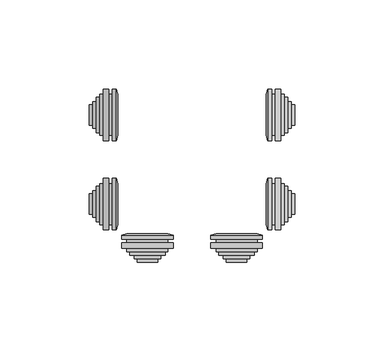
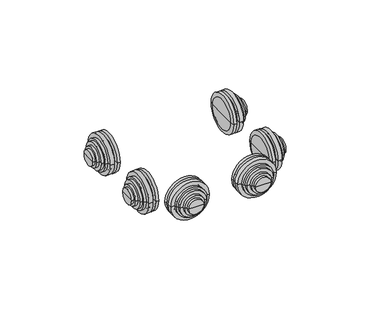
"""IFC4 building model written with IfcOpenShell, lengths in millimetres: cable carrier fitting geometry, КНС_КоробкаОтветвительнаяСКабельнымиВводами_8+2_IP55_DKC : с 8+2 кабельными вводами д.25/20мм, IP55,85х85х40мм."""

from ifc_helpers import new_model, si_unit, frame, origin, place, context, project, spatial, polyline, circle_curve, source, transform, mapped, element, save
from ifc_brep_helpers import plane_surface, cylinder_surface, revolved_surface, advanced_brep


def cable_carrier_fitting_ba293f6f(model_context):
    return source(origin(), model_context, "Body", "AdvancedBrep", [
        advanced_brep(
        [(-44.7, -36.5, 15.9), (-44.7, -13.5, 15.9), (-44.7, -10.5, 15.9), (-44.7, -39.5, 15.9), (-46.7, -36.5, 15.9), (-46.7, -13.5, 15.9), (-46.7, -39.5, 15.9), (-46.7, -10.5, 15.9), (-49.7, -39.5, 15.9), (-49.7, -10.5, 15.9), (-49.7, -36.5, 15.9), (-49.7, -13.5, 15.9), (-51.7, -36.5, 15.9), (-51.7, -13.5, 15.9), (-51.7, -35.0, 15.9), (-51.7, -15.0, 15.9), (-53.7, -35.0, 15.9), (-53.7, -15.0, 15.9), (-53.7, -32.5, 15.9), (-53.7, -17.5, 15.9), (-55.7, -32.5, 15.9), (-55.7, -17.5, 15.9), (-55.7, -30.75, 15.9), (-55.7, -19.25, 15.9), (-57.7, -30.75, 15.9), (-57.7, -19.25, 15.9), (-57.7, -25.0, 15.9), (-41.7, -36.5, 15.9), (-41.7, -13.5, 15.9), (-41.7, -25.0, 15.9), (-42.4491137, -39.5, 15.9), (-42.4491137, -10.5, 15.9)],
        [
            (0, 1, circle_curve(frame((-44.7, -25.0, 15.9), z_axis=(1.0, 0.0, 0.0), x_axis=(0.0, 1.0000000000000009, 0.0)), 11.5)),
            (1, 2),
            (2, 3, circle_curve(frame((-44.7, -25.0, 15.9), z_axis=(-1.0, 0.0, 0.0), x_axis=(0.0, 1.0000000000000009, 0.0)), 14.5)),
            (3, 0),
            (1, 0, circle_curve(frame((-44.7, -25.0, 15.9), z_axis=(1.0, 0.0, 0.0), x_axis=(0.0, 1.0000000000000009, 0.0)), 11.5)),
            (3, 2, circle_curve(frame((-44.7, -25.0, 15.9), z_axis=(-1.0, 0.0, 0.0), x_axis=(0.0, 1.0000000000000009, 0.0)), 14.5)),
            (4, 5, circle_curve(frame((-46.7, -25.0, 15.9), z_axis=(1.0, 0.0, 0.0), x_axis=(0.0, 1.0000000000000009, 0.0)), 11.5)),
            (5, 1),
            (0, 4),
            (5, 4, circle_curve(frame((-46.7, -25.0, 15.9), z_axis=(1.0, 0.0, 0.0), x_axis=(0.0, 1.0000000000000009, 0.0)), 11.5)),
            (6, 7, circle_curve(frame((-46.7, -25.0, 15.9), z_axis=(1.0, 0.0, 0.0), x_axis=(0.0, 1.0000000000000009, 0.0)), 14.5)),
            (7, 5),
            (4, 6),
            (7, 6, circle_curve(frame((-46.7, -25.0, 15.9), z_axis=(1.0, 0.0, 0.0), x_axis=(0.0, 1.0000000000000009, 0.0)), 14.5)),
            (8, 9, circle_curve(frame((-49.7, -25.0, 15.9), z_axis=(1.0, 0.0, 0.0), x_axis=(0.0, 1.0000000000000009, 0.0)), 14.5)),
            (9, 7),
            (6, 8),
            (9, 8, circle_curve(frame((-49.7, -25.0, 15.9), z_axis=(1.0, 0.0, 0.0), x_axis=(0.0, 1.0000000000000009, 0.0)), 14.5)),
            (10, 11, circle_curve(frame((-49.7, -25.0, 15.9), z_axis=(1.0, 0.0, 0.0), x_axis=(0.0, 1.0000000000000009, 0.0)), 11.5)),
            (11, 9),
            (8, 10),
            (11, 10, circle_curve(frame((-49.7, -25.0, 15.9), z_axis=(1.0, 0.0, 0.0), x_axis=(0.0, 1.0000000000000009, 0.0)), 11.5)),
            (12, 13, circle_curve(frame((-51.7, -25.0, 15.9), z_axis=(1.0, 0.0, 0.0), x_axis=(0.0, 1.0000000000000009, 0.0)), 11.5)),
            (13, 11),
            (10, 12),
            (13, 12, circle_curve(frame((-51.7, -25.0, 15.9), z_axis=(1.0, 0.0, 0.0), x_axis=(0.0, 1.0000000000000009, 0.0)), 11.5)),
            (14, 15, circle_curve(frame((-51.7, -25.0, 15.9), z_axis=(1.0, 0.0, 0.0), x_axis=(0.0, 1.0000000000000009, 0.0)), 10.0)),
            (15, 13),
            (12, 14),
            (15, 14, circle_curve(frame((-51.7, -25.0, 15.9), z_axis=(1.0, 0.0, 0.0), x_axis=(0.0, 1.0000000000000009, 0.0)), 10.0)),
            (16, 17, circle_curve(frame((-53.7, -25.0, 15.9), z_axis=(1.0, 0.0, 0.0), x_axis=(0.0, 1.0000000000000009, 0.0)), 10.0)),
            (17, 15),
            (14, 16),
            (17, 16, circle_curve(frame((-53.7, -25.0, 15.9), z_axis=(1.0, 0.0, 0.0), x_axis=(0.0, 1.0000000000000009, 0.0)), 10.0)),
            (18, 19, circle_curve(frame((-53.7, -25.0, 15.9), z_axis=(1.0, 0.0, 0.0), x_axis=(0.0, 1.0000000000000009, 0.0)), 7.5)),
            (19, 17),
            (16, 18),
            (19, 18, circle_curve(frame((-53.7, -25.0, 15.9), z_axis=(1.0, 0.0, 0.0), x_axis=(0.0, 1.0000000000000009, 0.0)), 7.5)),
            (20, 21, circle_curve(frame((-55.7, -25.0, 15.9), z_axis=(1.0, 0.0, 0.0), x_axis=(0.0, 1.0000000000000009, 0.0)), 7.5)),
            (21, 19),
            (18, 20),
            (21, 20, circle_curve(frame((-55.7, -25.0, 15.9), z_axis=(1.0, 0.0, 0.0), x_axis=(0.0, 1.0000000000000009, 0.0)), 7.5)),
            (22, 23, circle_curve(frame((-55.7, -25.0, 15.9), z_axis=(1.0, 0.0, 0.0), x_axis=(0.0, 1.0000000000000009, 0.0)), 5.75)),
            (23, 21),
            (20, 22),
            (23, 22, circle_curve(frame((-55.7, -25.0, 15.9), z_axis=(1.0, 0.0, 0.0), x_axis=(0.0, 1.0000000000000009, 0.0)), 5.75)),
            (24, 25, circle_curve(frame((-57.7, -25.0, 15.9), z_axis=(1.0, 0.0, 0.0), x_axis=(0.0, 1.0000000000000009, 0.0)), 5.75)),
            (25, 23),
            (22, 24),
            (25, 24, circle_curve(frame((-57.7, -25.0, 15.9), z_axis=(1.0, 0.0, 0.0), x_axis=(0.0, 1.0000000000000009, 0.0)), 5.75)),
            (26, 25),
            (24, 26),
            (27, 28, circle_curve(frame((-41.7, -25.0, 15.9), z_axis=(1.0, 0.0, 0.0), x_axis=(0.0, 1.0000000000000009, 0.0)), 11.5)),
            (28, 29),
            (29, 27),
            (28, 27, circle_curve(frame((-41.7, -25.0, 15.9), z_axis=(1.0, 0.0, 0.0), x_axis=(0.0, 1.0000000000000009, 0.0)), 11.5)),
            (30, 31, circle_curve(frame((-42.4491137, -25.0, 15.9), z_axis=(1.0, 0.0, 0.0), x_axis=(0.0, 1.0000000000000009, 0.0)), 14.5)),
            (31, 28),
            (27, 30),
            (31, 30, circle_curve(frame((-42.4491137, -25.0, 15.9), z_axis=(1.0, 0.0, 0.0), x_axis=(0.0, 1.0000000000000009, 0.0)), 14.5)),
            (2, 31),
            (30, 3),
        ],
        [
            plane_surface(frame((-44.7, -25.0, 15.9), z_axis=(-1.0, 0.0, 0.0), x_axis=(0.0, 1.0, 0.0))),
            cylinder_surface(frame((1468.3, -25.0, 15.9), z_axis=(-1.0000000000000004, 0.0, 0.0), x_axis=(0.0, 1.0000000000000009, 0.0)), 11.5),
            plane_surface(frame((-46.7, -25.0, 15.9), z_axis=(1.0, 0.0, 0.0), x_axis=(0.0, 1.0, 0.0))),
            cylinder_surface(frame((1468.3, -25.0, 15.9), z_axis=(-1.0000000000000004, 0.0, 0.0), x_axis=(0.0, 1.0000000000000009, 0.0)), 14.5),
            plane_surface(frame((-49.7, -25.0, 15.9), z_axis=(-1.0, 0.0, 0.0), x_axis=(0.0, 1.0, 0.0))),
            plane_surface(frame((-51.7, -25.0, 15.9), z_axis=(-1.0, 0.0, 0.0), x_axis=(0.0, 1.0, 0.0))),
            cylinder_surface(frame((1468.3, -25.0, 15.9), z_axis=(-1.0000000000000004, 0.0, 0.0), x_axis=(0.0, 1.0000000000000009, 0.0)), 10.0),
            plane_surface(frame((-53.7, -25.0, 15.9), z_axis=(-1.0, 0.0, 0.0), x_axis=(0.0, 1.0, 0.0))),
            cylinder_surface(frame((1468.3, -25.0, 15.9), z_axis=(-1.0000000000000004, 0.0, 0.0), x_axis=(0.0, 1.0000000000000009, 0.0)), 7.5),
            plane_surface(frame((-55.7, -25.0, 15.9), z_axis=(-1.0, 0.0, 0.0), x_axis=(0.0, 1.0, 0.0))),
            cylinder_surface(frame((1468.3, -25.0, 15.9), z_axis=(-1.0000000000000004, 0.0, 0.0), x_axis=(0.0, 1.0000000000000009, 0.0)), 5.75),
            plane_surface(frame((-57.7, -25.0, 15.9), z_axis=(-1.0, 0.0, 0.0), x_axis=(0.0, 1.0, 0.0))),
            plane_surface(frame((-41.7, -25.0, 15.9), z_axis=(1.0, 0.0, 0.0), x_axis=(0.0, 1.0, 0.0))),
            revolved_surface(polyline([(-41.7, -13.5, 15.9), (-42.4491137, -10.5, 15.9)]), (1468.3, -25.0, 15.9), (-1.0000000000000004, 0.0, 0.0)),
        ],
        [
            (0, [[1, 2, 3, 4]]),
            (0, [[5, -4, 6, -2]]),
            (1, [[7, 8, -1, 9]]),
            (1, [[10, -9, -5, -8]]),
            (2, [[11, 12, -7, 13]]),
            (2, [[14, -13, -10, -12]]),
            (3, [[15, 16, -11, 17]]),
            (3, [[18, -17, -14, -16]]),
            (4, [[19, 20, -15, 21]]),
            (4, [[22, -21, -18, -20]]),
            (1, [[23, 24, -19, 25]]),
            (1, [[26, -25, -22, -24]]),
            (5, [[27, 28, -23, 29]]),
            (5, [[30, -29, -26, -28]]),
            (6, [[31, 32, -27, 33]]),
            (6, [[34, -33, -30, -32]]),
            (7, [[35, 36, -31, 37]]),
            (7, [[38, -37, -34, -36]]),
            (8, [[39, 40, -35, 41]]),
            (8, [[42, -41, -38, -40]]),
            (9, [[43, 44, -39, 45]]),
            (9, [[46, -45, -42, -44]]),
            (10, [[47, 48, -43, 49]]),
            (10, [[50, -49, -46, -48]]),
            (11, [[51, -47, 52]]),
            (11, [[-52, -50, -51]]),
            (12, [[53, 54, 55]]),
            (12, [[56, -55, -54]]),
            (13, [[57, 58, -53, 59]]),
            (13, [[60, -59, -56, -58]]),
            (3, [[-3, 61, -57, 62]]),
            (3, [[-6, -62, -60, -61]]),
        ],
    ),
        advanced_brep(
        [(-44.7, 13.5, 15.9), (-44.7, 36.5, 15.9), (-44.7, 39.5, 15.9), (-44.7, 10.5, 15.9), (-46.7, 13.5, 15.9), (-46.7, 36.5, 15.9), (-46.7, 10.5, 15.9), (-46.7, 39.5, 15.9), (-49.7, 10.5, 15.9), (-49.7, 39.5, 15.9), (-49.7, 13.5, 15.9), (-49.7, 36.5, 15.9), (-51.7, 13.5, 15.9), (-51.7, 36.5, 15.9), (-51.7, 15.0, 15.9), (-51.7, 35.0, 15.9), (-53.7, 15.0, 15.9), (-53.7, 35.0, 15.9), (-53.7, 17.5, 15.9), (-53.7, 32.5, 15.9), (-55.7, 17.5, 15.9), (-55.7, 32.5, 15.9), (-55.7, 19.25, 15.9), (-55.7, 30.75, 15.9), (-57.7, 19.25, 15.9), (-57.7, 30.75, 15.9), (-57.7, 25.0, 15.9), (-41.7, 13.5, 15.9), (-41.7, 36.5, 15.9), (-41.7, 25.0, 15.9), (-42.4491137, 10.5, 15.9), (-42.4491137, 39.5, 15.9)],
        [
            (0, 1, circle_curve(frame((-44.7, 25.0, 15.9), z_axis=(1.0, 0.0, 0.0), x_axis=(0.0, 1.0000000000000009, 0.0)), 11.5)),
            (1, 2),
            (2, 3, circle_curve(frame((-44.7, 25.0, 15.9), z_axis=(-1.0, 0.0, 0.0), x_axis=(0.0, 1.0000000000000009, 0.0)), 14.5)),
            (3, 0),
            (1, 0, circle_curve(frame((-44.7, 25.0, 15.9), z_axis=(1.0, 0.0, 0.0), x_axis=(0.0, 1.0000000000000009, 0.0)), 11.5)),
            (3, 2, circle_curve(frame((-44.7, 25.0, 15.9), z_axis=(-1.0, 0.0, 0.0), x_axis=(0.0, 1.0000000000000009, 0.0)), 14.5)),
            (4, 5, circle_curve(frame((-46.7, 25.0, 15.9), z_axis=(1.0, 0.0, 0.0), x_axis=(0.0, 1.0000000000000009, 0.0)), 11.5)),
            (5, 1),
            (0, 4),
            (5, 4, circle_curve(frame((-46.7, 25.0, 15.9), z_axis=(1.0, 0.0, 0.0), x_axis=(0.0, 1.0000000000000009, 0.0)), 11.5)),
            (6, 7, circle_curve(frame((-46.7, 25.0, 15.9), z_axis=(1.0, 0.0, 0.0), x_axis=(0.0, 1.0000000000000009, 0.0)), 14.5)),
            (7, 5),
            (4, 6),
            (7, 6, circle_curve(frame((-46.7, 25.0, 15.9), z_axis=(1.0, 0.0, 0.0), x_axis=(0.0, 1.0000000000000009, 0.0)), 14.5)),
            (8, 9, circle_curve(frame((-49.7, 25.0, 15.9), z_axis=(1.0, 0.0, 0.0), x_axis=(0.0, 1.0000000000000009, 0.0)), 14.5)),
            (9, 7),
            (6, 8),
            (9, 8, circle_curve(frame((-49.7, 25.0, 15.9), z_axis=(1.0, 0.0, 0.0), x_axis=(0.0, 1.0000000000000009, 0.0)), 14.5)),
            (10, 11, circle_curve(frame((-49.7, 25.0, 15.9), z_axis=(1.0, 0.0, 0.0), x_axis=(0.0, 1.0000000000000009, 0.0)), 11.5)),
            (11, 9),
            (8, 10),
            (11, 10, circle_curve(frame((-49.7, 25.0, 15.9), z_axis=(1.0, 0.0, 0.0), x_axis=(0.0, 1.0000000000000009, 0.0)), 11.5)),
            (12, 13, circle_curve(frame((-51.7, 25.0, 15.9), z_axis=(1.0, 0.0, 0.0), x_axis=(0.0, 1.0000000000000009, 0.0)), 11.5)),
            (13, 11),
            (10, 12),
            (13, 12, circle_curve(frame((-51.7, 25.0, 15.9), z_axis=(1.0, 0.0, 0.0), x_axis=(0.0, 1.0000000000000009, 0.0)), 11.5)),
            (14, 15, circle_curve(frame((-51.7, 25.0, 15.9), z_axis=(1.0, 0.0, 0.0), x_axis=(0.0, 1.0000000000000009, 0.0)), 10.0)),
            (15, 13),
            (12, 14),
            (15, 14, circle_curve(frame((-51.7, 25.0, 15.9), z_axis=(1.0, 0.0, 0.0), x_axis=(0.0, 1.0000000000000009, 0.0)), 10.0)),
            (16, 17, circle_curve(frame((-53.7, 25.0, 15.9), z_axis=(1.0, 0.0, 0.0), x_axis=(0.0, 1.0000000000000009, 0.0)), 10.0)),
            (17, 15),
            (14, 16),
            (17, 16, circle_curve(frame((-53.7, 25.0, 15.9), z_axis=(1.0, 0.0, 0.0), x_axis=(0.0, 1.0000000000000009, 0.0)), 10.0)),
            (18, 19, circle_curve(frame((-53.7, 25.0, 15.9), z_axis=(1.0, 0.0, 0.0), x_axis=(0.0, 1.0000000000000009, 0.0)), 7.5)),
            (19, 17),
            (16, 18),
            (19, 18, circle_curve(frame((-53.7, 25.0, 15.9), z_axis=(1.0, 0.0, 0.0), x_axis=(0.0, 1.0000000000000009, 0.0)), 7.5)),
            (20, 21, circle_curve(frame((-55.7, 25.0, 15.9), z_axis=(1.0, 0.0, 0.0), x_axis=(0.0, 1.0000000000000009, 0.0)), 7.5)),
            (21, 19),
            (18, 20),
            (21, 20, circle_curve(frame((-55.7, 25.0, 15.9), z_axis=(1.0, 0.0, 0.0), x_axis=(0.0, 1.0000000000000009, 0.0)), 7.5)),
            (22, 23, circle_curve(frame((-55.7, 25.0, 15.9), z_axis=(1.0, 0.0, 0.0), x_axis=(0.0, 1.0000000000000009, 0.0)), 5.75)),
            (23, 21),
            (20, 22),
            (23, 22, circle_curve(frame((-55.7, 25.0, 15.9), z_axis=(1.0, 0.0, 0.0), x_axis=(0.0, 1.0000000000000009, 0.0)), 5.75)),
            (24, 25, circle_curve(frame((-57.7, 25.0, 15.9), z_axis=(1.0, 0.0, 0.0), x_axis=(0.0, 1.0000000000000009, 0.0)), 5.75)),
            (25, 23),
            (22, 24),
            (25, 24, circle_curve(frame((-57.7, 25.0, 15.9), z_axis=(1.0, 0.0, 0.0), x_axis=(0.0, 1.0000000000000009, 0.0)), 5.75)),
            (26, 25),
            (24, 26),
            (27, 28, circle_curve(frame((-41.7, 25.0, 15.9), z_axis=(1.0, 0.0, 0.0), x_axis=(0.0, 1.0000000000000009, 0.0)), 11.5)),
            (28, 29),
            (29, 27),
            (28, 27, circle_curve(frame((-41.7, 25.0, 15.9), z_axis=(1.0, 0.0, 0.0), x_axis=(0.0, 1.0000000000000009, 0.0)), 11.5)),
            (30, 31, circle_curve(frame((-42.4491137, 25.0, 15.9), z_axis=(1.0, 0.0, 0.0), x_axis=(0.0, 1.0000000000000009, 0.0)), 14.5)),
            (31, 28),
            (27, 30),
            (31, 30, circle_curve(frame((-42.4491137, 25.0, 15.9), z_axis=(1.0, 0.0, 0.0), x_axis=(0.0, 1.0000000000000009, 0.0)), 14.5)),
            (2, 31),
            (30, 3),
        ],
        [
            plane_surface(frame((-44.7, 25.0, 15.9), z_axis=(-1.0, 0.0, 0.0), x_axis=(0.0, 1.0, 0.0))),
            cylinder_surface(frame((1468.3, 25.0, 15.9), z_axis=(-1.0000000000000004, 0.0, 0.0), x_axis=(0.0, 1.0000000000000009, 0.0)), 11.5),
            plane_surface(frame((-46.7, 25.0, 15.9), z_axis=(1.0, 0.0, 0.0), x_axis=(0.0, 1.0, 0.0))),
            cylinder_surface(frame((1468.3, 25.0, 15.9), z_axis=(-1.0000000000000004, 0.0, 0.0), x_axis=(0.0, 1.0000000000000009, 0.0)), 14.5),
            plane_surface(frame((-49.7, 25.0, 15.9), z_axis=(-1.0, 0.0, 0.0), x_axis=(0.0, 1.0, 0.0))),
            plane_surface(frame((-51.7, 25.0, 15.9), z_axis=(-1.0, 0.0, 0.0), x_axis=(0.0, 1.0, 0.0))),
            cylinder_surface(frame((1468.3, 25.0, 15.9), z_axis=(-1.0000000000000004, 0.0, 0.0), x_axis=(0.0, 1.0000000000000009, 0.0)), 10.0),
            plane_surface(frame((-53.7, 25.0, 15.9), z_axis=(-1.0, 0.0, 0.0), x_axis=(0.0, 1.0, 0.0))),
            cylinder_surface(frame((1468.3, 25.0, 15.9), z_axis=(-1.0000000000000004, 0.0, 0.0), x_axis=(0.0, 1.0000000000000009, 0.0)), 7.5),
            plane_surface(frame((-55.7, 25.0, 15.9), z_axis=(-1.0, 0.0, 0.0), x_axis=(0.0, 1.0, 0.0))),
            cylinder_surface(frame((1468.3, 25.0, 15.9), z_axis=(-1.0000000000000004, 0.0, 0.0), x_axis=(0.0, 1.0000000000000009, 0.0)), 5.75),
            plane_surface(frame((-57.7, 25.0, 15.9), z_axis=(-1.0, 0.0, 0.0), x_axis=(0.0, 1.0, 0.0))),
            plane_surface(frame((-41.7, 25.0, 15.9), z_axis=(1.0, 0.0, 0.0), x_axis=(0.0, 1.0, 0.0))),
            revolved_surface(polyline([(-41.7, 36.5, 15.9), (-42.4491137, 39.5, 15.9)]), (1468.3, 25.0, 15.9), (-1.0000000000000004, 0.0, 0.0)),
        ],
        [
            (0, [[1, 2, 3, 4]]),
            (0, [[5, -4, 6, -2]]),
            (1, [[7, 8, -1, 9]]),
            (1, [[10, -9, -5, -8]]),
            (2, [[11, 12, -7, 13]]),
            (2, [[14, -13, -10, -12]]),
            (3, [[15, 16, -11, 17]]),
            (3, [[18, -17, -14, -16]]),
            (4, [[19, 20, -15, 21]]),
            (4, [[22, -21, -18, -20]]),
            (1, [[23, 24, -19, 25]]),
            (1, [[26, -25, -22, -24]]),
            (5, [[27, 28, -23, 29]]),
            (5, [[30, -29, -26, -28]]),
            (6, [[31, 32, -27, 33]]),
            (6, [[34, -33, -30, -32]]),
            (7, [[35, 36, -31, 37]]),
            (7, [[38, -37, -34, -36]]),
            (8, [[39, 40, -35, 41]]),
            (8, [[42, -41, -38, -40]]),
            (9, [[43, 44, -39, 45]]),
            (9, [[46, -45, -42, -44]]),
            (10, [[47, 48, -43, 49]]),
            (10, [[50, -49, -46, -48]]),
            (11, [[51, -47, 52]]),
            (11, [[-52, -50, -51]]),
            (12, [[53, 54, 55]]),
            (12, [[56, -55, -54]]),
            (13, [[57, 58, -53, 59]]),
            (13, [[60, -59, -56, -58]]),
            (3, [[-3, 61, -57, 62]]),
            (3, [[-6, -62, -60, -61]]),
        ],
    ),
        advanced_brep(
        [(44.7, 36.5, 15.9), (44.7, 13.5, 15.9), (44.7, 10.5, 15.9), (44.7, 39.5, 15.9), (46.7, 36.5, 15.9), (46.7, 13.5, 15.9), (46.7, 39.5, 15.9), (46.7, 10.5, 15.9), (49.7, 39.5, 15.9), (49.7, 10.5, 15.9), (49.7, 36.5, 15.9), (49.7, 13.5, 15.9), (51.7, 36.5, 15.9), (51.7, 13.5, 15.9), (51.7, 35.0, 15.9), (51.7, 15.0, 15.9), (53.7, 35.0, 15.9), (53.7, 15.0, 15.9), (53.7, 32.5, 15.9), (53.7, 17.5, 15.9), (55.7, 32.5, 15.9), (55.7, 17.5, 15.9), (55.7, 30.75, 15.9), (55.7, 19.25, 15.9), (57.7, 30.75, 15.9), (57.7, 19.25, 15.9), (57.7, 25.0, 15.9), (41.7, 36.5, 15.9), (41.7, 13.5, 15.9), (41.7, 25.0, 15.9), (42.4491137, 39.5, 15.9), (42.4491137, 10.5, 15.9)],
        [
            (0, 1, circle_curve(frame((44.7, 25.0, 15.9), z_axis=(-1.0, 0.0, 0.0), x_axis=(0.0, -1.0, 0.0)), 11.5)),
            (1, 2),
            (2, 3, circle_curve(frame((44.7, 25.0, 15.9), z_axis=(1.0, 0.0, 0.0), x_axis=(0.0, -1.0, 0.0)), 14.5)),
            (3, 0),
            (1, 0, circle_curve(frame((44.7, 25.0, 15.9), z_axis=(-1.0, 0.0, 0.0), x_axis=(0.0, -1.0, 0.0)), 11.5)),
            (3, 2, circle_curve(frame((44.7, 25.0, 15.9), z_axis=(1.0, 0.0, 0.0), x_axis=(0.0, -1.0, 0.0)), 14.5)),
            (4, 5, circle_curve(frame((46.7, 25.0, 15.9), z_axis=(-1.0, 0.0, 0.0), x_axis=(0.0, -1.0, 0.0)), 11.5)),
            (5, 1),
            (0, 4),
            (5, 4, circle_curve(frame((46.7, 25.0, 15.9), z_axis=(-1.0, 0.0, 0.0), x_axis=(0.0, -1.0, 0.0)), 11.5)),
            (6, 7, circle_curve(frame((46.7, 25.0, 15.9), z_axis=(-1.0, 0.0, 0.0), x_axis=(0.0, -1.0, 0.0)), 14.5)),
            (7, 5),
            (4, 6),
            (7, 6, circle_curve(frame((46.7, 25.0, 15.9), z_axis=(-1.0, 0.0, 0.0), x_axis=(0.0, -1.0, 0.0)), 14.5)),
            (8, 9, circle_curve(frame((49.7, 25.0, 15.9), z_axis=(-1.0, 0.0, 0.0), x_axis=(0.0, -1.0, 0.0)), 14.5)),
            (9, 7),
            (6, 8),
            (9, 8, circle_curve(frame((49.7, 25.0, 15.9), z_axis=(-1.0, 0.0, 0.0), x_axis=(0.0, -1.0, 0.0)), 14.5)),
            (10, 11, circle_curve(frame((49.7, 25.0, 15.9), z_axis=(-1.0, 0.0, 0.0), x_axis=(0.0, -1.0, 0.0)), 11.5)),
            (11, 9),
            (8, 10),
            (11, 10, circle_curve(frame((49.7, 25.0, 15.9), z_axis=(-1.0, 0.0, 0.0), x_axis=(0.0, -1.0, 0.0)), 11.5)),
            (12, 13, circle_curve(frame((51.7, 25.0, 15.9), z_axis=(-1.0, 0.0, 0.0), x_axis=(0.0, -1.0, 0.0)), 11.5)),
            (13, 11),
            (10, 12),
            (13, 12, circle_curve(frame((51.7, 25.0, 15.9), z_axis=(-1.0, 0.0, 0.0), x_axis=(0.0, -1.0, 0.0)), 11.5)),
            (14, 15, circle_curve(frame((51.7, 25.0, 15.9), z_axis=(-1.0, 0.0, 0.0), x_axis=(0.0, -1.0, 0.0)), 10.0)),
            (15, 13),
            (12, 14),
            (15, 14, circle_curve(frame((51.7, 25.0, 15.9), z_axis=(-1.0, 0.0, 0.0), x_axis=(0.0, -1.0, 0.0)), 10.0)),
            (16, 17, circle_curve(frame((53.7, 25.0, 15.9), z_axis=(-1.0, 0.0, 0.0), x_axis=(0.0, -1.0, 0.0)), 10.0)),
            (17, 15),
            (14, 16),
            (17, 16, circle_curve(frame((53.7, 25.0, 15.9), z_axis=(-1.0, 0.0, 0.0), x_axis=(0.0, -1.0, 0.0)), 10.0)),
            (18, 19, circle_curve(frame((53.7, 25.0, 15.9), z_axis=(-1.0, 0.0, 0.0), x_axis=(0.0, -1.0, 0.0)), 7.5)),
            (19, 17),
            (16, 18),
            (19, 18, circle_curve(frame((53.7, 25.0, 15.9), z_axis=(-1.0, 0.0, 0.0), x_axis=(0.0, -1.0, 0.0)), 7.5)),
            (20, 21, circle_curve(frame((55.7, 25.0, 15.9), z_axis=(-1.0, 0.0, 0.0), x_axis=(0.0, -1.0, 0.0)), 7.5)),
            (21, 19),
            (18, 20),
            (21, 20, circle_curve(frame((55.7, 25.0, 15.9), z_axis=(-1.0, 0.0, 0.0), x_axis=(0.0, -1.0, 0.0)), 7.5)),
            (22, 23, circle_curve(frame((55.7, 25.0, 15.9), z_axis=(-1.0, 0.0, 0.0), x_axis=(0.0, -1.0, 0.0)), 5.75)),
            (23, 21),
            (20, 22),
            (23, 22, circle_curve(frame((55.7, 25.0, 15.9), z_axis=(-1.0, 0.0, 0.0), x_axis=(0.0, -1.0, 0.0)), 5.75)),
            (24, 25, circle_curve(frame((57.7, 25.0, 15.9), z_axis=(-1.0, 0.0, 0.0), x_axis=(0.0, -1.0, 0.0)), 5.75)),
            (25, 23),
            (22, 24),
            (25, 24, circle_curve(frame((57.7, 25.0, 15.9), z_axis=(-1.0, 0.0, 0.0), x_axis=(0.0, -1.0, 0.0)), 5.75)),
            (26, 25),
            (24, 26),
            (27, 28, circle_curve(frame((41.7, 25.0, 15.9), z_axis=(-1.0, 0.0, 0.0), x_axis=(0.0, -1.0, 0.0)), 11.5)),
            (28, 29),
            (29, 27),
            (28, 27, circle_curve(frame((41.7, 25.0, 15.9), z_axis=(-1.0, 0.0, 0.0), x_axis=(0.0, -1.0, 0.0)), 11.5)),
            (30, 31, circle_curve(frame((42.4491137, 25.0, 15.9), z_axis=(-1.0, 0.0, 0.0), x_axis=(0.0, -1.0, 0.0)), 14.5)),
            (31, 28),
            (27, 30),
            (31, 30, circle_curve(frame((42.4491137, 25.0, 15.9), z_axis=(-1.0, 0.0, 0.0), x_axis=(0.0, -1.0, 0.0)), 14.5)),
            (2, 31),
            (30, 3),
        ],
        [
            plane_surface(frame((44.7, 25.0, 15.9), z_axis=(1.0, 0.0, 0.0), x_axis=(0.0, -1.0, 0.0))),
            cylinder_surface(frame((-1468.3, 25.0, 15.9), z_axis=(1.0, 0.0, 0.0), x_axis=(0.0, -1.0, 0.0)), 11.5),
            plane_surface(frame((46.7, 25.0, 15.9), z_axis=(-1.0, 0.0, 0.0), x_axis=(0.0, -1.0, 0.0))),
            cylinder_surface(frame((-1468.3, 25.0, 15.9), z_axis=(1.0, 0.0, 0.0), x_axis=(0.0, -1.0, 0.0)), 14.5),
            plane_surface(frame((49.7, 25.0, 15.9), z_axis=(1.0, 0.0, 0.0), x_axis=(0.0, -1.0, 0.0))),
            plane_surface(frame((51.7, 25.0, 15.9), z_axis=(1.0, 0.0, 0.0), x_axis=(0.0, -1.0, 0.0))),
            cylinder_surface(frame((-1468.3, 25.0, 15.9), z_axis=(1.0, 0.0, 0.0), x_axis=(0.0, -1.0, 0.0)), 10.0),
            plane_surface(frame((53.7, 25.0, 15.9), z_axis=(1.0, 0.0, 0.0), x_axis=(0.0, -1.0, 0.0))),
            cylinder_surface(frame((-1468.3, 25.0, 15.9), z_axis=(1.0, 0.0, 0.0), x_axis=(0.0, -1.0, 0.0)), 7.5),
            plane_surface(frame((55.7, 25.0, 15.9), z_axis=(1.0, 0.0, 0.0), x_axis=(0.0, -1.0, 0.0))),
            cylinder_surface(frame((-1468.3, 25.0, 15.9), z_axis=(1.0, 0.0, 0.0), x_axis=(0.0, -1.0, 0.0)), 5.75),
            plane_surface(frame((57.7, 25.0, 15.9), z_axis=(1.0, 0.0, 0.0), x_axis=(0.0, -1.0, 0.0))),
            plane_surface(frame((41.7, 25.0, 15.9), z_axis=(-1.0, 0.0, 0.0), x_axis=(0.0, -1.0, 0.0))),
            revolved_surface(polyline([(41.7, 13.5, 15.9), (42.4491137, 10.5, 15.9)]), (-1468.3, 25.0, 15.9), (1.0, 0.0, 0.0)),
        ],
        [
            (0, [[1, 2, 3, 4]]),
            (0, [[5, -4, 6, -2]]),
            (1, [[7, 8, -1, 9]]),
            (1, [[10, -9, -5, -8]]),
            (2, [[11, 12, -7, 13]]),
            (2, [[14, -13, -10, -12]]),
            (3, [[15, 16, -11, 17]]),
            (3, [[18, -17, -14, -16]]),
            (4, [[19, 20, -15, 21]]),
            (4, [[22, -21, -18, -20]]),
            (1, [[23, 24, -19, 25]]),
            (1, [[26, -25, -22, -24]]),
            (5, [[27, 28, -23, 29]]),
            (5, [[30, -29, -26, -28]]),
            (6, [[31, 32, -27, 33]]),
            (6, [[34, -33, -30, -32]]),
            (7, [[35, 36, -31, 37]]),
            (7, [[38, -37, -34, -36]]),
            (8, [[39, 40, -35, 41]]),
            (8, [[42, -41, -38, -40]]),
            (9, [[43, 44, -39, 45]]),
            (9, [[46, -45, -42, -44]]),
            (10, [[47, 48, -43, 49]]),
            (10, [[50, -49, -46, -48]]),
            (11, [[51, -47, 52]]),
            (11, [[-52, -50, -51]]),
            (12, [[53, 54, 55]]),
            (12, [[56, -55, -54]]),
            (13, [[57, 58, -53, 59]]),
            (13, [[60, -59, -56, -58]]),
            (3, [[-3, 61, -57, 62]]),
            (3, [[-6, -62, -60, -61]]),
        ],
    ),
        advanced_brep(
        [(44.7, -13.5, 15.9), (44.7, -36.5, 15.9), (44.7, -39.5, 15.9), (44.7, -10.5, 15.9), (46.7, -13.5, 15.9), (46.7, -36.5, 15.9), (46.7, -10.5, 15.9), (46.7, -39.5, 15.9), (49.7, -10.5, 15.9), (49.7, -39.5, 15.9), (49.7, -13.5, 15.9), (49.7, -36.5, 15.9), (51.7, -13.5, 15.9), (51.7, -36.5, 15.9), (51.7, -15.0, 15.9), (51.7, -35.0, 15.9), (53.7, -15.0, 15.9), (53.7, -35.0, 15.9), (53.7, -17.5, 15.9), (53.7, -32.5, 15.9), (55.7, -17.5, 15.9), (55.7, -32.5, 15.9), (55.7, -19.25, 15.9), (55.7, -30.75, 15.9), (57.7, -19.25, 15.9), (57.7, -30.75, 15.9), (57.7, -25.0, 15.9), (41.7, -13.5, 15.9), (41.7, -36.5, 15.9), (41.7, -25.0, 15.9), (42.4491137, -10.5, 15.9), (42.4491137, -39.5, 15.9)],
        [
            (0, 1, circle_curve(frame((44.7, -25.0, 15.9), z_axis=(-1.0, 0.0, 0.0), x_axis=(0.0, -1.0000000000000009, 0.0)), 11.5)),
            (1, 2),
            (2, 3, circle_curve(frame((44.7, -25.0, 15.9), z_axis=(1.0, 0.0, 0.0), x_axis=(0.0, -1.0000000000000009, 0.0)), 14.5)),
            (3, 0),
            (1, 0, circle_curve(frame((44.7, -25.0, 15.9), z_axis=(-1.0, 0.0, 0.0), x_axis=(0.0, -1.0000000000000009, 0.0)), 11.5)),
            (3, 2, circle_curve(frame((44.7, -25.0, 15.9), z_axis=(1.0, 0.0, 0.0), x_axis=(0.0, -1.0000000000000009, 0.0)), 14.5)),
            (4, 5, circle_curve(frame((46.7, -25.0, 15.9), z_axis=(-1.0, 0.0, 0.0), x_axis=(0.0, -1.0000000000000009, 0.0)), 11.5)),
            (5, 1),
            (0, 4),
            (5, 4, circle_curve(frame((46.7, -25.0, 15.9), z_axis=(-1.0, 0.0, 0.0), x_axis=(0.0, -1.0000000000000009, 0.0)), 11.5)),
            (6, 7, circle_curve(frame((46.7, -25.0, 15.9), z_axis=(-1.0, 0.0, 0.0), x_axis=(0.0, -1.0000000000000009, 0.0)), 14.5)),
            (7, 5),
            (4, 6),
            (7, 6, circle_curve(frame((46.7, -25.0, 15.9), z_axis=(-1.0, 0.0, 0.0), x_axis=(0.0, -1.0000000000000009, 0.0)), 14.5)),
            (8, 9, circle_curve(frame((49.7, -25.0, 15.9), z_axis=(-1.0, 0.0, 0.0), x_axis=(0.0, -1.0000000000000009, 0.0)), 14.5)),
            (9, 7),
            (6, 8),
            (9, 8, circle_curve(frame((49.7, -25.0, 15.9), z_axis=(-1.0, 0.0, 0.0), x_axis=(0.0, -1.0000000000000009, 0.0)), 14.5)),
            (10, 11, circle_curve(frame((49.7, -25.0, 15.9), z_axis=(-1.0, 0.0, 0.0), x_axis=(0.0, -1.0000000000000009, 0.0)), 11.5)),
            (11, 9),
            (8, 10),
            (11, 10, circle_curve(frame((49.7, -25.0, 15.9), z_axis=(-1.0, 0.0, 0.0), x_axis=(0.0, -1.0000000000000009, 0.0)), 11.5)),
            (12, 13, circle_curve(frame((51.7, -25.0, 15.9), z_axis=(-1.0, 0.0, 0.0), x_axis=(0.0, -1.0000000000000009, 0.0)), 11.5)),
            (13, 11),
            (10, 12),
            (13, 12, circle_curve(frame((51.7, -25.0, 15.9), z_axis=(-1.0, 0.0, 0.0), x_axis=(0.0, -1.0000000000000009, 0.0)), 11.5)),
            (14, 15, circle_curve(frame((51.7, -25.0, 15.9), z_axis=(-1.0, 0.0, 0.0), x_axis=(0.0, -1.0000000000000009, 0.0)), 10.0)),
            (15, 13),
            (12, 14),
            (15, 14, circle_curve(frame((51.7, -25.0, 15.9), z_axis=(-1.0, 0.0, 0.0), x_axis=(0.0, -1.0000000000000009, 0.0)), 10.0)),
            (16, 17, circle_curve(frame((53.7, -25.0, 15.9), z_axis=(-1.0, 0.0, 0.0), x_axis=(0.0, -1.0000000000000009, 0.0)), 10.0)),
            (17, 15),
            (14, 16),
            (17, 16, circle_curve(frame((53.7, -25.0, 15.9), z_axis=(-1.0, 0.0, 0.0), x_axis=(0.0, -1.0000000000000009, 0.0)), 10.0)),
            (18, 19, circle_curve(frame((53.7, -25.0, 15.9), z_axis=(-1.0, 0.0, 0.0), x_axis=(0.0, -1.0000000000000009, 0.0)), 7.5)),
            (19, 17),
            (16, 18),
            (19, 18, circle_curve(frame((53.7, -25.0, 15.9), z_axis=(-1.0, 0.0, 0.0), x_axis=(0.0, -1.0000000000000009, 0.0)), 7.5)),
            (20, 21, circle_curve(frame((55.7, -25.0, 15.9), z_axis=(-1.0, 0.0, 0.0), x_axis=(0.0, -1.0000000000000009, 0.0)), 7.5)),
            (21, 19),
            (18, 20),
            (21, 20, circle_curve(frame((55.7, -25.0, 15.9), z_axis=(-1.0, 0.0, 0.0), x_axis=(0.0, -1.0000000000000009, 0.0)), 7.5)),
            (22, 23, circle_curve(frame((55.7, -25.0, 15.9), z_axis=(-1.0, 0.0, 0.0), x_axis=(0.0, -1.0000000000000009, 0.0)), 5.75)),
            (23, 21),
            (20, 22),
            (23, 22, circle_curve(frame((55.7, -25.0, 15.9), z_axis=(-1.0, 0.0, 0.0), x_axis=(0.0, -1.0000000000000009, 0.0)), 5.75)),
            (24, 25, circle_curve(frame((57.7, -25.0, 15.9), z_axis=(-1.0, 0.0, 0.0), x_axis=(0.0, -1.0000000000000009, 0.0)), 5.75)),
            (25, 23),
            (22, 24),
            (25, 24, circle_curve(frame((57.7, -25.0, 15.9), z_axis=(-1.0, 0.0, 0.0), x_axis=(0.0, -1.0000000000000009, 0.0)), 5.75)),
            (26, 25),
            (24, 26),
            (27, 28, circle_curve(frame((41.7, -25.0, 15.9), z_axis=(-1.0, 0.0, 0.0), x_axis=(0.0, -1.0000000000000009, 0.0)), 11.5)),
            (28, 29),
            (29, 27),
            (28, 27, circle_curve(frame((41.7, -25.0, 15.9), z_axis=(-1.0, 0.0, 0.0), x_axis=(0.0, -1.0000000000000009, 0.0)), 11.5)),
            (30, 31, circle_curve(frame((42.4491137, -25.0, 15.9), z_axis=(-1.0, 0.0, 0.0), x_axis=(0.0, -1.0000000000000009, 0.0)), 14.5)),
            (31, 28),
            (27, 30),
            (31, 30, circle_curve(frame((42.4491137, -25.0, 15.9), z_axis=(-1.0, 0.0, 0.0), x_axis=(0.0, -1.0000000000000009, 0.0)), 14.5)),
            (2, 31),
            (30, 3),
        ],
        [
            plane_surface(frame((44.7, -25.0, 15.9), z_axis=(1.0, 0.0, 0.0), x_axis=(0.0, -1.0, 0.0))),
            cylinder_surface(frame((-1468.3, -25.0, 15.9), z_axis=(1.0000000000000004, 0.0, 0.0), x_axis=(0.0, -1.0000000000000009, 0.0)), 11.5),
            plane_surface(frame((46.7, -25.0, 15.9), z_axis=(-1.0, 0.0, 0.0), x_axis=(0.0, -1.0, 0.0))),
            cylinder_surface(frame((-1468.3, -25.0, 15.9), z_axis=(1.0000000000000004, 0.0, 0.0), x_axis=(0.0, -1.0000000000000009, 0.0)), 14.5),
            plane_surface(frame((49.7, -25.0, 15.9), z_axis=(1.0, 0.0, 0.0), x_axis=(0.0, -1.0, 0.0))),
            plane_surface(frame((51.7, -25.0, 15.9), z_axis=(1.0, 0.0, 0.0), x_axis=(0.0, -1.0, 0.0))),
            cylinder_surface(frame((-1468.3, -25.0, 15.9), z_axis=(1.0000000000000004, 0.0, 0.0), x_axis=(0.0, -1.0000000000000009, 0.0)), 10.0),
            plane_surface(frame((53.7, -25.0, 15.9), z_axis=(1.0, 0.0, 0.0), x_axis=(0.0, -1.0, 0.0))),
            cylinder_surface(frame((-1468.3, -25.0, 15.9), z_axis=(1.0000000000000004, 0.0, 0.0), x_axis=(0.0, -1.0000000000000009, 0.0)), 7.5),
            plane_surface(frame((55.7, -25.0, 15.9), z_axis=(1.0, 0.0, 0.0), x_axis=(0.0, -1.0, 0.0))),
            cylinder_surface(frame((-1468.3, -25.0, 15.9), z_axis=(1.0000000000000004, 0.0, 0.0), x_axis=(0.0, -1.0000000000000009, 0.0)), 5.75),
            plane_surface(frame((57.7, -25.0, 15.9), z_axis=(1.0, 0.0, 0.0), x_axis=(0.0, -1.0, 0.0))),
            plane_surface(frame((41.7, -25.0, 15.9), z_axis=(-1.0, 0.0, 0.0), x_axis=(0.0, -1.0, 0.0))),
            revolved_surface(polyline([(41.7, -36.5, 15.9), (42.4491137, -39.5, 15.9)]), (-1468.3, -25.0, 15.9), (1.0000000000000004, 0.0, 0.0)),
        ],
        [
            (0, [[1, 2, 3, 4]]),
            (0, [[5, -4, 6, -2]]),
            (1, [[7, 8, -1, 9]]),
            (1, [[10, -9, -5, -8]]),
            (2, [[11, 12, -7, 13]]),
            (2, [[14, -13, -10, -12]]),
            (3, [[15, 16, -11, 17]]),
            (3, [[18, -17, -14, -16]]),
            (4, [[19, 20, -15, 21]]),
            (4, [[22, -21, -18, -20]]),
            (1, [[23, 24, -19, 25]]),
            (1, [[26, -25, -22, -24]]),
            (5, [[27, 28, -23, 29]]),
            (5, [[30, -29, -26, -28]]),
            (6, [[31, 32, -27, 33]]),
            (6, [[34, -33, -30, -32]]),
            (7, [[35, 36, -31, 37]]),
            (7, [[38, -37, -34, -36]]),
            (8, [[39, 40, -35, 41]]),
            (8, [[42, -41, -38, -40]]),
            (9, [[43, 44, -39, 45]]),
            (9, [[46, -45, -42, -44]]),
            (10, [[47, 48, -43, 49]]),
            (10, [[50, -49, -46, -48]]),
            (11, [[51, -47, 52]]),
            (11, [[-52, -50, -51]]),
            (12, [[53, 54, 55]]),
            (12, [[56, -55, -54]]),
            (13, [[57, 58, -53, 59]]),
            (13, [[60, -59, -56, -58]]),
            (3, [[-3, 61, -57, 62]]),
            (3, [[-6, -62, -60, -61]]),
        ],
    ),
        advanced_brep(
        [(36.5, -44.7, 15.9), (13.5, -44.7, 15.9), (10.5, -44.7, 15.9), (39.5, -44.7, 15.9), (36.5, -46.7, 15.9), (13.5, -46.7, 15.9), (39.5, -46.7, 15.9), (10.5, -46.7, 15.9), (39.5, -49.7, 15.9), (10.5, -49.7, 15.9), (36.5, -49.7, 15.9), (13.5, -49.7, 15.9), (36.5, -51.7, 15.9), (13.5, -51.7, 15.9), (35.0, -51.7, 15.9), (15.0, -51.7, 15.9), (35.0, -53.7, 15.9), (15.0, -53.7, 15.9), (32.5, -53.7, 15.9), (17.5, -53.7, 15.9), (32.5, -55.7, 15.9), (17.5, -55.7, 15.9), (30.75, -55.7, 15.9), (19.25, -55.7, 15.9), (30.75, -57.7, 15.9), (19.25, -57.7, 15.9), (25.0, -57.7, 15.9), (36.5, -41.7, 15.9), (13.5, -41.7, 15.9), (25.0, -41.7, 15.9), (39.5, -42.4491137, 15.9), (10.5, -42.4491137, 15.9)],
        [
            (0, 1, circle_curve(frame((25.0, -44.7, 15.9), z_axis=(0.0, 1.0, 0.0), x_axis=(-1.0000000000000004, 0.0, 0.0)), 11.5)),
            (1, 2),
            (2, 3, circle_curve(frame((25.0, -44.7, 15.9), z_axis=(0.0, -1.0, 0.0), x_axis=(-1.0000000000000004, 0.0, 0.0)), 14.5)),
            (3, 0),
            (1, 0, circle_curve(frame((25.0, -44.7, 15.9), z_axis=(0.0, 1.0, 0.0), x_axis=(-1.0000000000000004, 0.0, 0.0)), 11.5)),
            (3, 2, circle_curve(frame((25.0, -44.7, 15.9), z_axis=(0.0, -1.0, 0.0), x_axis=(-1.0000000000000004, 0.0, 0.0)), 14.5)),
            (4, 5, circle_curve(frame((25.0, -46.7, 15.9), z_axis=(0.0, 1.0, 0.0), x_axis=(-1.0000000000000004, 0.0, 0.0)), 11.5)),
            (5, 1),
            (0, 4),
            (5, 4, circle_curve(frame((25.0, -46.7, 15.9), z_axis=(0.0, 1.0, 0.0), x_axis=(-1.0000000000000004, 0.0, 0.0)), 11.5)),
            (6, 7, circle_curve(frame((25.0, -46.7, 15.9), z_axis=(0.0, 1.0, 0.0), x_axis=(-1.0000000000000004, 0.0, 0.0)), 14.5)),
            (7, 5),
            (4, 6),
            (7, 6, circle_curve(frame((25.0, -46.7, 15.9), z_axis=(0.0, 1.0, 0.0), x_axis=(-1.0000000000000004, 0.0, 0.0)), 14.5)),
            (8, 9, circle_curve(frame((25.0, -49.7, 15.9), z_axis=(0.0, 1.0, 0.0), x_axis=(-1.0000000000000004, 0.0, 0.0)), 14.5)),
            (9, 7),
            (6, 8),
            (9, 8, circle_curve(frame((25.0, -49.7, 15.9), z_axis=(0.0, 1.0, 0.0), x_axis=(-1.0000000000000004, 0.0, 0.0)), 14.5)),
            (10, 11, circle_curve(frame((25.0, -49.7, 15.9), z_axis=(0.0, 1.0, 0.0), x_axis=(-1.0000000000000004, 0.0, 0.0)), 11.5)),
            (11, 9),
            (8, 10),
            (11, 10, circle_curve(frame((25.0, -49.7, 15.9), z_axis=(0.0, 1.0, 0.0), x_axis=(-1.0000000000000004, 0.0, 0.0)), 11.5)),
            (12, 13, circle_curve(frame((25.0, -51.7, 15.9), z_axis=(0.0, 1.0, 0.0), x_axis=(-1.0000000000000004, 0.0, 0.0)), 11.5)),
            (13, 11),
            (10, 12),
            (13, 12, circle_curve(frame((25.0, -51.7, 15.9), z_axis=(0.0, 1.0, 0.0), x_axis=(-1.0000000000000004, 0.0, 0.0)), 11.5)),
            (14, 15, circle_curve(frame((25.0, -51.7, 15.9), z_axis=(0.0, 1.0, 0.0), x_axis=(-1.0000000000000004, 0.0, 0.0)), 10.0)),
            (15, 13),
            (12, 14),
            (15, 14, circle_curve(frame((25.0, -51.7, 15.9), z_axis=(0.0, 1.0, 0.0), x_axis=(-1.0000000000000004, 0.0, 0.0)), 10.0)),
            (16, 17, circle_curve(frame((25.0, -53.7, 15.9), z_axis=(0.0, 1.0, 0.0), x_axis=(-1.0000000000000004, 0.0, 0.0)), 10.0)),
            (17, 15),
            (14, 16),
            (17, 16, circle_curve(frame((25.0, -53.7, 15.9), z_axis=(0.0, 1.0, 0.0), x_axis=(-1.0000000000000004, 0.0, 0.0)), 10.0)),
            (18, 19, circle_curve(frame((25.0, -53.7, 15.9), z_axis=(0.0, 1.0, 0.0), x_axis=(-1.0000000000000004, 0.0, 0.0)), 7.5)),
            (19, 17),
            (16, 18),
            (19, 18, circle_curve(frame((25.0, -53.7, 15.9), z_axis=(0.0, 1.0, 0.0), x_axis=(-1.0000000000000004, 0.0, 0.0)), 7.5)),
            (20, 21, circle_curve(frame((25.0, -55.7, 15.9), z_axis=(0.0, 1.0, 0.0), x_axis=(-1.0000000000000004, 0.0, 0.0)), 7.5)),
            (21, 19),
            (18, 20),
            (21, 20, circle_curve(frame((25.0, -55.7, 15.9), z_axis=(0.0, 1.0, 0.0), x_axis=(-1.0000000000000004, 0.0, 0.0)), 7.5)),
            (22, 23, circle_curve(frame((25.0, -55.7, 15.9), z_axis=(0.0, 1.0, 0.0), x_axis=(-1.0000000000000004, 0.0, 0.0)), 5.75)),
            (23, 21),
            (20, 22),
            (23, 22, circle_curve(frame((25.0, -55.7, 15.9), z_axis=(0.0, 1.0, 0.0), x_axis=(-1.0000000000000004, 0.0, 0.0)), 5.75)),
            (24, 25, circle_curve(frame((25.0, -57.7, 15.9), z_axis=(0.0, 1.0, 0.0), x_axis=(-1.0000000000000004, 0.0, 0.0)), 5.75)),
            (25, 23),
            (22, 24),
            (25, 24, circle_curve(frame((25.0, -57.7, 15.9), z_axis=(0.0, 1.0, 0.0), x_axis=(-1.0000000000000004, 0.0, 0.0)), 5.75)),
            (26, 25),
            (24, 26),
            (27, 28, circle_curve(frame((25.0, -41.7, 15.9), z_axis=(0.0, 1.0, 0.0), x_axis=(-1.0000000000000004, 0.0, 0.0)), 11.5)),
            (28, 29),
            (29, 27),
            (28, 27, circle_curve(frame((25.0, -41.7, 15.9), z_axis=(0.0, 1.0, 0.0), x_axis=(-1.0000000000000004, 0.0, 0.0)), 11.5)),
            (30, 31, circle_curve(frame((25.0, -42.4491137, 15.9), z_axis=(0.0, 1.0, 0.0), x_axis=(-1.0000000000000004, 0.0, 0.0)), 14.5)),
            (31, 28),
            (27, 30),
            (31, 30, circle_curve(frame((25.0, -42.4491137, 15.9), z_axis=(0.0, 1.0, 0.0), x_axis=(-1.0000000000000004, 0.0, 0.0)), 14.5)),
            (2, 31),
            (30, 3),
        ],
        [
            plane_surface(frame((25.0, -44.7, 15.9), z_axis=(0.0, -1.0, 0.0), x_axis=(-1.0, 0.0, 0.0))),
            cylinder_surface(frame((25.0, 1468.3, 15.9), z_axis=(0.0, -1.0000000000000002, 0.0), x_axis=(-1.0000000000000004, 0.0, 0.0)), 11.5),
            plane_surface(frame((25.0, -46.7, 15.9), z_axis=(0.0, 1.0, 0.0), x_axis=(-1.0, 0.0, 0.0))),
            cylinder_surface(frame((25.0, 1468.3, 15.9), z_axis=(0.0, -1.0000000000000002, 0.0), x_axis=(-1.0000000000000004, 0.0, 0.0)), 14.5),
            plane_surface(frame((25.0, -49.7, 15.9), z_axis=(0.0, -1.0, 0.0), x_axis=(-1.0, 0.0, 0.0))),
            plane_surface(frame((25.0, -51.7, 15.9), z_axis=(0.0, -1.0, 0.0), x_axis=(-1.0, 0.0, 0.0))),
            cylinder_surface(frame((25.0, 1468.3, 15.9), z_axis=(0.0, -1.0000000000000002, 0.0), x_axis=(-1.0000000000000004, 0.0, 0.0)), 10.0),
            plane_surface(frame((25.0, -53.7, 15.9), z_axis=(0.0, -1.0, 0.0), x_axis=(-1.0, 0.0, 0.0))),
            cylinder_surface(frame((25.0, 1468.3, 15.9), z_axis=(0.0, -1.0000000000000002, 0.0), x_axis=(-1.0000000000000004, 0.0, 0.0)), 7.5),
            plane_surface(frame((25.0, -55.7, 15.9), z_axis=(0.0, -1.0, 0.0), x_axis=(-1.0, 0.0, 0.0))),
            cylinder_surface(frame((25.0, 1468.3, 15.9), z_axis=(0.0, -1.0000000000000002, 0.0), x_axis=(-1.0000000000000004, 0.0, 0.0)), 5.75),
            plane_surface(frame((25.0, -57.7, 15.9), z_axis=(0.0, -1.0, 0.0), x_axis=(-1.0, 0.0, 0.0))),
            plane_surface(frame((25.0, -41.7, 15.9), z_axis=(0.0, 1.0, 0.0), x_axis=(-1.0, 0.0, 0.0))),
            revolved_surface(polyline([(13.5, -41.7, 15.9), (10.5, -42.4491137, 15.9)]), (25.0, 1468.3, 15.9), (0.0, -1.0000000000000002, 0.0)),
        ],
        [
            (0, [[1, 2, 3, 4]]),
            (0, [[5, -4, 6, -2]]),
            (1, [[7, 8, -1, 9]]),
            (1, [[10, -9, -5, -8]]),
            (2, [[11, 12, -7, 13]]),
            (2, [[14, -13, -10, -12]]),
            (3, [[15, 16, -11, 17]]),
            (3, [[18, -17, -14, -16]]),
            (4, [[19, 20, -15, 21]]),
            (4, [[22, -21, -18, -20]]),
            (1, [[23, 24, -19, 25]]),
            (1, [[26, -25, -22, -24]]),
            (5, [[27, 28, -23, 29]]),
            (5, [[30, -29, -26, -28]]),
            (6, [[31, 32, -27, 33]]),
            (6, [[34, -33, -30, -32]]),
            (7, [[35, 36, -31, 37]]),
            (7, [[38, -37, -34, -36]]),
            (8, [[39, 40, -35, 41]]),
            (8, [[42, -41, -38, -40]]),
            (9, [[43, 44, -39, 45]]),
            (9, [[46, -45, -42, -44]]),
            (10, [[47, 48, -43, 49]]),
            (10, [[50, -49, -46, -48]]),
            (11, [[51, -47, 52]]),
            (11, [[-52, -50, -51]]),
            (12, [[53, 54, 55]]),
            (12, [[56, -55, -54]]),
            (13, [[57, 58, -53, 59]]),
            (13, [[60, -59, -56, -58]]),
            (3, [[-3, 61, -57, 62]]),
            (3, [[-6, -62, -60, -61]]),
        ],
    ),
        advanced_brep(
        [(-13.5, -44.7, 15.9), (-36.5, -44.7, 15.9), (-39.5, -44.7, 15.9), (-10.5, -44.7, 15.9), (-13.5, -46.7, 15.9), (-36.5, -46.7, 15.9), (-10.5, -46.7, 15.9), (-39.5, -46.7, 15.9), (-10.5, -49.7, 15.9), (-39.5, -49.7, 15.9), (-13.5, -49.7, 15.9), (-36.5, -49.7, 15.9), (-13.5, -51.7, 15.9), (-36.5, -51.7, 15.9), (-15.0, -51.7, 15.9), (-35.0, -51.7, 15.9), (-15.0, -53.7, 15.9), (-35.0, -53.7, 15.9), (-17.5, -53.7, 15.9), (-32.5, -53.7, 15.9), (-17.5, -55.7, 15.9), (-32.5, -55.7, 15.9), (-19.25, -55.7, 15.9), (-30.75, -55.7, 15.9), (-19.25, -57.7, 15.9), (-30.75, -57.7, 15.9), (-25.0, -57.7, 15.9), (-13.5, -41.7, 15.9), (-36.5, -41.7, 15.9), (-25.0, -41.7, 15.9), (-10.5, -42.4491137, 15.9), (-39.5, -42.4491137, 15.9)],
        [
            (0, 1, circle_curve(frame((-25.0, -44.7, 15.9), z_axis=(0.0, 1.0, 0.0), x_axis=(-1.0000000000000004, 0.0, 0.0)), 11.5)),
            (1, 2),
            (2, 3, circle_curve(frame((-25.0, -44.7, 15.9), z_axis=(0.0, -1.0, 0.0), x_axis=(-1.0000000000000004, 0.0, 0.0)), 14.5)),
            (3, 0),
            (1, 0, circle_curve(frame((-25.0, -44.7, 15.9), z_axis=(0.0, 1.0, 0.0), x_axis=(-1.0000000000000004, 0.0, 0.0)), 11.5)),
            (3, 2, circle_curve(frame((-25.0, -44.7, 15.9), z_axis=(0.0, -1.0, 0.0), x_axis=(-1.0000000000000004, 0.0, 0.0)), 14.5)),
            (4, 5, circle_curve(frame((-25.0, -46.7, 15.9), z_axis=(0.0, 1.0, 0.0), x_axis=(-1.0000000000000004, 0.0, 0.0)), 11.5)),
            (5, 1),
            (0, 4),
            (5, 4, circle_curve(frame((-25.0, -46.7, 15.9), z_axis=(0.0, 1.0, 0.0), x_axis=(-1.0000000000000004, 0.0, 0.0)), 11.5)),
            (6, 7, circle_curve(frame((-25.0, -46.7, 15.9), z_axis=(0.0, 1.0, 0.0), x_axis=(-1.0000000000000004, 0.0, 0.0)), 14.5)),
            (7, 5),
            (4, 6),
            (7, 6, circle_curve(frame((-25.0, -46.7, 15.9), z_axis=(0.0, 1.0, 0.0), x_axis=(-1.0000000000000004, 0.0, 0.0)), 14.5)),
            (8, 9, circle_curve(frame((-25.0, -49.7, 15.9), z_axis=(0.0, 1.0, 0.0), x_axis=(-1.0000000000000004, 0.0, 0.0)), 14.5)),
            (9, 7),
            (6, 8),
            (9, 8, circle_curve(frame((-25.0, -49.7, 15.9), z_axis=(0.0, 1.0, 0.0), x_axis=(-1.0000000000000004, 0.0, 0.0)), 14.5)),
            (10, 11, circle_curve(frame((-25.0, -49.7, 15.9), z_axis=(0.0, 1.0, 0.0), x_axis=(-1.0000000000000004, 0.0, 0.0)), 11.5)),
            (11, 9),
            (8, 10),
            (11, 10, circle_curve(frame((-25.0, -49.7, 15.9), z_axis=(0.0, 1.0, 0.0), x_axis=(-1.0000000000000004, 0.0, 0.0)), 11.5)),
            (12, 13, circle_curve(frame((-25.0, -51.7, 15.9), z_axis=(0.0, 1.0, 0.0), x_axis=(-1.0000000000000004, 0.0, 0.0)), 11.5)),
            (13, 11),
            (10, 12),
            (13, 12, circle_curve(frame((-25.0, -51.7, 15.9), z_axis=(0.0, 1.0, 0.0), x_axis=(-1.0000000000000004, 0.0, 0.0)), 11.5)),
            (14, 15, circle_curve(frame((-25.0, -51.7, 15.9), z_axis=(0.0, 1.0, 0.0), x_axis=(-1.0000000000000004, 0.0, 0.0)), 10.0)),
            (15, 13),
            (12, 14),
            (15, 14, circle_curve(frame((-25.0, -51.7, 15.9), z_axis=(0.0, 1.0, 0.0), x_axis=(-1.0000000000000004, 0.0, 0.0)), 10.0)),
            (16, 17, circle_curve(frame((-25.0, -53.7, 15.9), z_axis=(0.0, 1.0, 0.0), x_axis=(-1.0000000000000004, 0.0, 0.0)), 10.0)),
            (17, 15),
            (14, 16),
            (17, 16, circle_curve(frame((-25.0, -53.7, 15.9), z_axis=(0.0, 1.0, 0.0), x_axis=(-1.0000000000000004, 0.0, 0.0)), 10.0)),
            (18, 19, circle_curve(frame((-25.0, -53.7, 15.9), z_axis=(0.0, 1.0, 0.0), x_axis=(-1.0000000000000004, 0.0, 0.0)), 7.5)),
            (19, 17),
            (16, 18),
            (19, 18, circle_curve(frame((-25.0, -53.7, 15.9), z_axis=(0.0, 1.0, 0.0), x_axis=(-1.0000000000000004, 0.0, 0.0)), 7.5)),
            (20, 21, circle_curve(frame((-25.0, -55.7, 15.9), z_axis=(0.0, 1.0, 0.0), x_axis=(-1.0000000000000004, 0.0, 0.0)), 7.5)),
            (21, 19),
            (18, 20),
            (21, 20, circle_curve(frame((-25.0, -55.7, 15.9), z_axis=(0.0, 1.0, 0.0), x_axis=(-1.0000000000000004, 0.0, 0.0)), 7.5)),
            (22, 23, circle_curve(frame((-25.0, -55.7, 15.9), z_axis=(0.0, 1.0, 0.0), x_axis=(-1.0000000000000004, 0.0, 0.0)), 5.75)),
            (23, 21),
            (20, 22),
            (23, 22, circle_curve(frame((-25.0, -55.7, 15.9), z_axis=(0.0, 1.0, 0.0), x_axis=(-1.0000000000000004, 0.0, 0.0)), 5.75)),
            (24, 25, circle_curve(frame((-25.0, -57.7, 15.9), z_axis=(0.0, 1.0, 0.0), x_axis=(-1.0000000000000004, 0.0, 0.0)), 5.75)),
            (25, 23),
            (22, 24),
            (25, 24, circle_curve(frame((-25.0, -57.7, 15.9), z_axis=(0.0, 1.0, 0.0), x_axis=(-1.0000000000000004, 0.0, 0.0)), 5.75)),
            (26, 25),
            (24, 26),
            (27, 28, circle_curve(frame((-25.0, -41.7, 15.9), z_axis=(0.0, 1.0, 0.0), x_axis=(-1.0000000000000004, 0.0, 0.0)), 11.5)),
            (28, 29),
            (29, 27),
            (28, 27, circle_curve(frame((-25.0, -41.7, 15.9), z_axis=(0.0, 1.0, 0.0), x_axis=(-1.0000000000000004, 0.0, 0.0)), 11.5)),
            (30, 31, circle_curve(frame((-25.0, -42.4491137, 15.9), z_axis=(0.0, 1.0, 0.0), x_axis=(-1.0000000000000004, 0.0, 0.0)), 14.5)),
            (31, 28),
            (27, 30),
            (31, 30, circle_curve(frame((-25.0, -42.4491137, 15.9), z_axis=(0.0, 1.0, 0.0), x_axis=(-1.0000000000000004, 0.0, 0.0)), 14.5)),
            (2, 31),
            (30, 3),
        ],
        [
            plane_surface(frame((-25.0, -44.7, 15.9), z_axis=(0.0, -1.0, 0.0), x_axis=(-1.0, 0.0, 0.0))),
            cylinder_surface(frame((-25.0, 1468.3, 15.9), z_axis=(0.0, -1.0000000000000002, 0.0), x_axis=(-1.0000000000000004, 0.0, 0.0)), 11.5),
            plane_surface(frame((-25.0, -46.7, 15.9), z_axis=(0.0, 1.0, 0.0), x_axis=(-1.0, 0.0, 0.0))),
            cylinder_surface(frame((-25.0, 1468.3, 15.9), z_axis=(0.0, -1.0000000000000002, 0.0), x_axis=(-1.0000000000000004, 0.0, 0.0)), 14.5),
            plane_surface(frame((-25.0, -49.7, 15.9), z_axis=(0.0, -1.0, 0.0), x_axis=(-1.0, 0.0, 0.0))),
            plane_surface(frame((-25.0, -51.7, 15.9), z_axis=(0.0, -1.0, 0.0), x_axis=(-1.0, 0.0, 0.0))),
            cylinder_surface(frame((-25.0, 1468.3, 15.9), z_axis=(0.0, -1.0000000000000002, 0.0), x_axis=(-1.0000000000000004, 0.0, 0.0)), 10.0),
            plane_surface(frame((-25.0, -53.7, 15.9), z_axis=(0.0, -1.0, 0.0), x_axis=(-1.0, 0.0, 0.0))),
            cylinder_surface(frame((-25.0, 1468.3, 15.9), z_axis=(0.0, -1.0000000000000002, 0.0), x_axis=(-1.0000000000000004, 0.0, 0.0)), 7.5),
            plane_surface(frame((-25.0, -55.7, 15.9), z_axis=(0.0, -1.0, 0.0), x_axis=(-1.0, 0.0, 0.0))),
            cylinder_surface(frame((-25.0, 1468.3, 15.9), z_axis=(0.0, -1.0000000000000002, 0.0), x_axis=(-1.0000000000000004, 0.0, 0.0)), 5.75),
            plane_surface(frame((-25.0, -57.7, 15.9), z_axis=(0.0, -1.0, 0.0), x_axis=(-1.0, 0.0, 0.0))),
            plane_surface(frame((-25.0, -41.7, 15.9), z_axis=(0.0, 1.0, 0.0), x_axis=(-1.0, 0.0, 0.0))),
            revolved_surface(polyline([(-36.5, -41.7, 15.9), (-39.5, -42.4491137, 15.9)]), (-25.0, 1468.3, 15.9), (0.0, -1.0000000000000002, 0.0)),
        ],
        [
            (0, [[1, 2, 3, 4]]),
            (0, [[5, -4, 6, -2]]),
            (1, [[7, 8, -1, 9]]),
            (1, [[10, -9, -5, -8]]),
            (2, [[11, 12, -7, 13]]),
            (2, [[14, -13, -10, -12]]),
            (3, [[15, 16, -11, 17]]),
            (3, [[18, -17, -14, -16]]),
            (4, [[19, 20, -15, 21]]),
            (4, [[22, -21, -18, -20]]),
            (1, [[23, 24, -19, 25]]),
            (1, [[26, -25, -22, -24]]),
            (5, [[27, 28, -23, 29]]),
            (5, [[30, -29, -26, -28]]),
            (6, [[31, 32, -27, 33]]),
            (6, [[34, -33, -30, -32]]),
            (7, [[35, 36, -31, 37]]),
            (7, [[38, -37, -34, -36]]),
            (8, [[39, 40, -35, 41]]),
            (8, [[42, -41, -38, -40]]),
            (9, [[43, 44, -39, 45]]),
            (9, [[46, -45, -42, -44]]),
            (10, [[47, 48, -43, 49]]),
            (10, [[50, -49, -46, -48]]),
            (11, [[51, -47, 52]]),
            (11, [[-52, -50, -51]]),
            (12, [[53, 54, 55]]),
            (12, [[56, -55, -54]]),
            (13, [[57, 58, -53, 59]]),
            (13, [[60, -59, -56, -58]]),
            (3, [[-3, 61, -57, 62]]),
            (3, [[-6, -62, -60, -61]]),
        ],
    ),
    ])


if __name__ == "__main__":
    model = new_model("IFC4")
    model_context = context("Model", 3, world=origin())
    ifc_project = project(units=[si_unit("LENGTHUNIT", "METRE", prefix="MILLI")], contexts=[model_context])
    site = spatial("IfcSite", under=ifc_project)
    building = spatial("IfcBuilding", under=site)
    placement = place(None, origin())
    cable_carrier_fitting_shape = cable_carrier_fitting_ba293f6f(model_context)
    element("IfcCableCarrierFitting", 1, ObjectType="КНС_КоробкаОтветвительнаяСКабельнымиВводами_8+2_IP55_DKC : с 8+2 кабельными вводами д.25/20мм, IP55,85х85х40мм", at=placement, inside=building, context=model_context, shape_type="MappedRepresentation", body=[
        mapped(cable_carrier_fitting_shape, transform((0.0, 0.0, 0.0), x_axis=(1.0, 0.0, 0.0), y_axis=(0.0, 1.0, 0.0), z_axis=(0.0, 0.0, 1.0))),
    ])
    save(model, "model.ifc")
